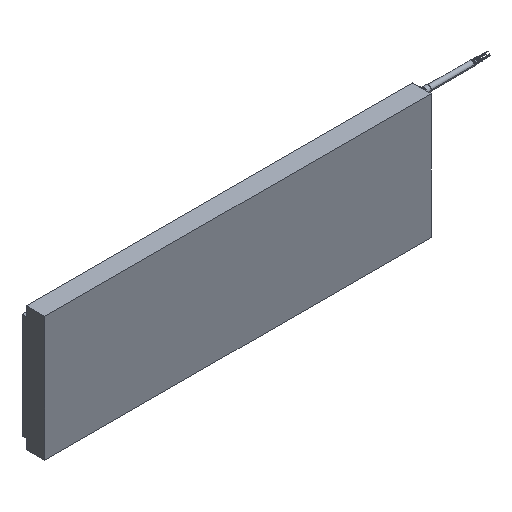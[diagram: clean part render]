
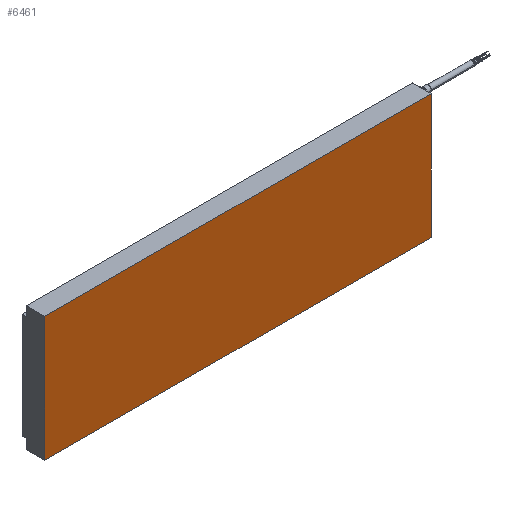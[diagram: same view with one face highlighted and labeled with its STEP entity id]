
A CAD part, isometric view. The second image highlights one B-rep face of the part: STEP entity #6461.
In plain terms, the highlighted planar face has unit normal (0, -1, 0).
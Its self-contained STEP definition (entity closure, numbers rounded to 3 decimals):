
#29=DIRECTION('',(0.,0.,-1.));
#30=VECTOR('',#29,235.);
#31=CARTESIAN_POINT('',(-364.1,0.,117.5));
#32=LINE('',#31,#30);
#33=DIRECTION('',(1.,0.,0.));
#34=VECTOR('',#33,728.2);
#35=CARTESIAN_POINT('',(-364.1,0.,-117.5));
#36=LINE('',#35,#34);
#37=DIRECTION('',(1.,0.,0.));
#38=VECTOR('',#37,728.2);
#39=CARTESIAN_POINT('',(-364.1,0.,117.5));
#40=LINE('',#39,#38);
#3833=DIRECTION('',(0.,0.,-1.));
#3834=VECTOR('',#3833,235.);
#3835=CARTESIAN_POINT('',(364.1,0.,117.5));
#3836=LINE('',#3835,#3834);
#4921=CARTESIAN_POINT('',(-364.1,0.,-117.5));
#4923=VERTEX_POINT('',#4921);
#4935=CARTESIAN_POINT('',(-364.1,0.,117.5));
#4936=VERTEX_POINT('',#4935);
#4937=CARTESIAN_POINT('',(364.1,0.,-117.5));
#4939=VERTEX_POINT('',#4937);
#4951=CARTESIAN_POINT('',(364.1,0.,117.5));
#4952=VERTEX_POINT('',#4951);
#6448=CARTESIAN_POINT('',(-364.1,0.,117.5));
#6449=DIRECTION('',(0.,-1.,0.));
#6450=DIRECTION('',(0.,0.,-1.));
#6451=AXIS2_PLACEMENT_3D('',#6448,#6449,#6450);
#6452=PLANE('',#6451);
#6453=ORIENTED_EDGE('',*,*,#6428,.F.);
#6455=ORIENTED_EDGE('',*,*,#6454,.T.);
#6457=ORIENTED_EDGE('',*,*,#6456,.T.);
#6458=ORIENTED_EDGE('',*,*,#6439,.F.);
#6459=EDGE_LOOP('',(#6453,#6455,#6457,#6458));
#6460=FACE_OUTER_BOUND('',#6459,.F.);
#6461=ADVANCED_FACE('',(#6460),#6452,.T.);
#6428=EDGE_CURVE('',#4936,#4923,#32,.T.);
#6439=EDGE_CURVE('',#4923,#4939,#36,.T.);
#6454=EDGE_CURVE('',#4936,#4952,#40,.T.);
#6456=EDGE_CURVE('',#4952,#4939,#3836,.T.);
